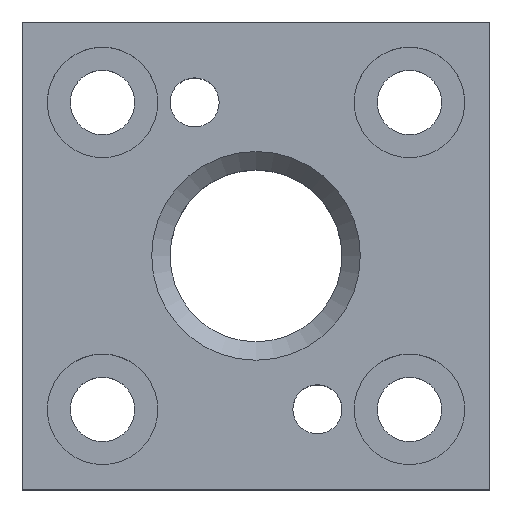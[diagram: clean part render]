
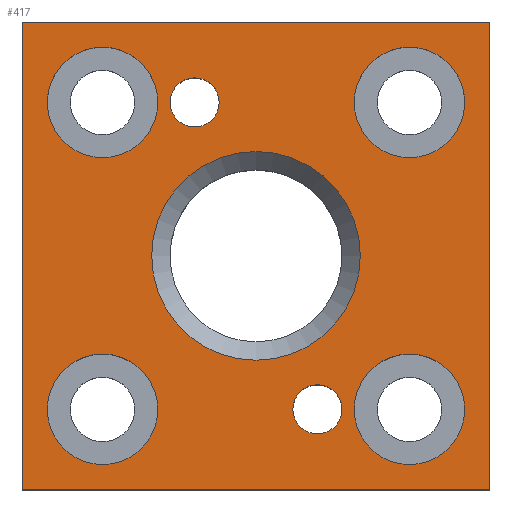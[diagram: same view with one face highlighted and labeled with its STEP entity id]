
A CAD part, top view. The second image highlights one B-rep face of the part: STEP entity #417.
In plain terms, the highlighted planar face has unit normal (0, 0, 1).
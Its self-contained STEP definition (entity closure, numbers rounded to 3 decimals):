
#15=FACE_BOUND('',#79,.T.);
#16=FACE_BOUND('',#80,.T.);
#17=FACE_BOUND('',#81,.T.);
#18=FACE_BOUND('',#82,.T.);
#19=FACE_BOUND('',#83,.T.);
#20=FACE_BOUND('',#84,.T.);
#21=FACE_BOUND('',#85,.T.);
#33=PLANE('',#463);
#56=FACE_OUTER_BOUND('',#78,.T.);
#78=EDGE_LOOP('',(#308,#309,#310,#311));
#79=EDGE_LOOP('',(#312,#313));
#80=EDGE_LOOP('',(#314,#315));
#81=EDGE_LOOP('',(#316,#317));
#82=EDGE_LOOP('',(#318,#319));
#83=EDGE_LOOP('',(#320,#321));
#84=EDGE_LOOP('',(#322,#323));
#85=EDGE_LOOP('',(#324));
#118=LINE('',#667,#142);
#119=LINE('',#669,#143);
#120=LINE('',#671,#144);
#121=LINE('',#672,#145);
#142=VECTOR('',#531,10.);
#143=VECTOR('',#532,10.);
#144=VECTOR('',#533,10.);
#145=VECTOR('',#534,10.);
#164=CIRCLE('',#458,17.);
#168=CIRCLE('',#464,9.);
#169=CIRCLE('',#465,9.);
#170=CIRCLE('',#466,9.);
#171=CIRCLE('',#467,9.);
#172=CIRCLE('',#468,9.);
#173=CIRCLE('',#469,9.);
#174=CIRCLE('',#470,9.);
#175=CIRCLE('',#471,9.);
#176=CIRCLE('',#472,4.);
#177=CIRCLE('',#473,4.);
#178=CIRCLE('',#474,4.);
#179=CIRCLE('',#475,4.);
#198=VERTEX_POINT('',#653);
#202=VERTEX_POINT('',#665);
#203=VERTEX_POINT('',#666);
#204=VERTEX_POINT('',#668);
#205=VERTEX_POINT('',#670);
#206=VERTEX_POINT('',#673);
#207=VERTEX_POINT('',#674);
#208=VERTEX_POINT('',#677);
#209=VERTEX_POINT('',#678);
#210=VERTEX_POINT('',#681);
#211=VERTEX_POINT('',#682);
#212=VERTEX_POINT('',#685);
#213=VERTEX_POINT('',#686);
#214=VERTEX_POINT('',#689);
#215=VERTEX_POINT('',#690);
#216=VERTEX_POINT('',#693);
#217=VERTEX_POINT('',#694);
#240=EDGE_CURVE('',#198,#198,#164,.T.);
#246=EDGE_CURVE('',#202,#203,#118,.T.);
#247=EDGE_CURVE('',#204,#202,#119,.T.);
#248=EDGE_CURVE('',#205,#204,#120,.T.);
#249=EDGE_CURVE('',#203,#205,#121,.T.);
#250=EDGE_CURVE('',#206,#207,#168,.T.);
#251=EDGE_CURVE('',#207,#206,#169,.T.);
#252=EDGE_CURVE('',#208,#209,#170,.T.);
#253=EDGE_CURVE('',#209,#208,#171,.T.);
#254=EDGE_CURVE('',#210,#211,#172,.T.);
#255=EDGE_CURVE('',#211,#210,#173,.T.);
#256=EDGE_CURVE('',#212,#213,#174,.T.);
#257=EDGE_CURVE('',#213,#212,#175,.T.);
#258=EDGE_CURVE('',#214,#215,#176,.T.);
#259=EDGE_CURVE('',#215,#214,#177,.T.);
#260=EDGE_CURVE('',#216,#217,#178,.T.);
#261=EDGE_CURVE('',#217,#216,#179,.T.);
#308=ORIENTED_EDGE('',*,*,#246,.F.);
#309=ORIENTED_EDGE('',*,*,#247,.F.);
#310=ORIENTED_EDGE('',*,*,#248,.F.);
#311=ORIENTED_EDGE('',*,*,#249,.F.);
#312=ORIENTED_EDGE('',*,*,#250,.T.);
#313=ORIENTED_EDGE('',*,*,#251,.T.);
#314=ORIENTED_EDGE('',*,*,#252,.T.);
#315=ORIENTED_EDGE('',*,*,#253,.T.);
#316=ORIENTED_EDGE('',*,*,#254,.T.);
#317=ORIENTED_EDGE('',*,*,#255,.T.);
#318=ORIENTED_EDGE('',*,*,#256,.T.);
#319=ORIENTED_EDGE('',*,*,#257,.T.);
#320=ORIENTED_EDGE('',*,*,#258,.T.);
#321=ORIENTED_EDGE('',*,*,#259,.T.);
#322=ORIENTED_EDGE('',*,*,#260,.T.);
#323=ORIENTED_EDGE('',*,*,#261,.T.);
#324=ORIENTED_EDGE('',*,*,#240,.F.);
#417=ADVANCED_FACE('',(#56,#15,#16,#17,#18,#19,#20,#21),#33,.T.);
#458=AXIS2_PLACEMENT_3D('',#654,#517,#518);
#463=AXIS2_PLACEMENT_3D('',#664,#529,#530);
#464=AXIS2_PLACEMENT_3D('',#675,#535,#536);
#465=AXIS2_PLACEMENT_3D('',#676,#537,#538);
#466=AXIS2_PLACEMENT_3D('',#679,#539,#540);
#467=AXIS2_PLACEMENT_3D('',#680,#541,#542);
#468=AXIS2_PLACEMENT_3D('',#683,#543,#544);
#469=AXIS2_PLACEMENT_3D('',#684,#545,#546);
#470=AXIS2_PLACEMENT_3D('',#687,#547,#548);
#471=AXIS2_PLACEMENT_3D('',#688,#549,#550);
#472=AXIS2_PLACEMENT_3D('',#691,#551,#552);
#473=AXIS2_PLACEMENT_3D('',#692,#553,#554);
#474=AXIS2_PLACEMENT_3D('',#695,#555,#556);
#475=AXIS2_PLACEMENT_3D('',#696,#557,#558);
#517=DIRECTION('center_axis',(0.,0.,1.));
#518=DIRECTION('ref_axis',(-1.,0.,0.));
#529=DIRECTION('center_axis',(0.,0.,1.));
#530=DIRECTION('ref_axis',(1.,0.,0.));
#531=DIRECTION('',(0.,-1.,0.));
#532=DIRECTION('',(1.,0.,0.));
#533=DIRECTION('',(0.,1.,0.));
#534=DIRECTION('',(-1.,0.,0.));
#535=DIRECTION('center_axis',(0.,0.,-1.));
#536=DIRECTION('ref_axis',(1.,0.,0.));
#537=DIRECTION('center_axis',(0.,0.,-1.));
#538=DIRECTION('ref_axis',(1.,0.,0.));
#539=DIRECTION('center_axis',(0.,0.,-1.));
#540=DIRECTION('ref_axis',(1.,0.,0.));
#541=DIRECTION('center_axis',(0.,0.,-1.));
#542=DIRECTION('ref_axis',(1.,0.,0.));
#543=DIRECTION('center_axis',(0.,0.,-1.));
#544=DIRECTION('ref_axis',(1.,0.,0.));
#545=DIRECTION('center_axis',(0.,0.,-1.));
#546=DIRECTION('ref_axis',(1.,0.,0.));
#547=DIRECTION('center_axis',(0.,0.,-1.));
#548=DIRECTION('ref_axis',(1.,0.,0.));
#549=DIRECTION('center_axis',(0.,0.,-1.));
#550=DIRECTION('ref_axis',(1.,0.,0.));
#551=DIRECTION('center_axis',(0.,0.,-1.));
#552=DIRECTION('ref_axis',(1.,0.,0.));
#553=DIRECTION('center_axis',(0.,0.,-1.));
#554=DIRECTION('ref_axis',(1.,0.,0.));
#555=DIRECTION('center_axis',(0.,0.,-1.));
#556=DIRECTION('ref_axis',(1.,0.,0.));
#557=DIRECTION('center_axis',(0.,0.,-1.));
#558=DIRECTION('ref_axis',(1.,0.,0.));
#653=CARTESIAN_POINT('',(30.543,17.036,25.));
#654=CARTESIAN_POINT('Origin',(13.543,17.036,25.));
#664=CARTESIAN_POINT('Origin',(13.543,17.036,25.));
#665=CARTESIAN_POINT('',(51.643,55.136,25.));
#666=CARTESIAN_POINT('',(51.643,-21.064,25.));
#667=CARTESIAN_POINT('',(51.643,55.136,25.));
#668=CARTESIAN_POINT('',(-24.557,55.136,25.));
#669=CARTESIAN_POINT('',(-24.557,55.136,25.));
#670=CARTESIAN_POINT('',(-24.557,-21.064,25.));
#671=CARTESIAN_POINT('',(-24.557,-21.064,25.));
#672=CARTESIAN_POINT('',(51.643,-21.064,25.));
#673=CARTESIAN_POINT('',(-2.457,42.036,25.));
#674=CARTESIAN_POINT('',(-20.457,42.036,25.));
#675=CARTESIAN_POINT('Origin',(-11.457,42.036,25.));
#676=CARTESIAN_POINT('Origin',(-11.457,42.036,25.));
#677=CARTESIAN_POINT('',(47.543,-7.964,25.));
#678=CARTESIAN_POINT('',(29.543,-7.964,25.));
#679=CARTESIAN_POINT('Origin',(38.543,-7.964,25.));
#680=CARTESIAN_POINT('Origin',(38.543,-7.964,25.));
#681=CARTESIAN_POINT('',(-2.457,-7.964,25.));
#682=CARTESIAN_POINT('',(-20.457,-7.964,25.));
#683=CARTESIAN_POINT('Origin',(-11.457,-7.964,25.));
#684=CARTESIAN_POINT('Origin',(-11.457,-7.964,25.));
#685=CARTESIAN_POINT('',(47.543,42.036,25.));
#686=CARTESIAN_POINT('',(29.543,42.036,25.));
#687=CARTESIAN_POINT('Origin',(38.543,42.036,25.));
#688=CARTESIAN_POINT('Origin',(38.543,42.036,25.));
#689=CARTESIAN_POINT('',(7.543,42.036,25.));
#690=CARTESIAN_POINT('',(-0.457,42.036,25.));
#691=CARTESIAN_POINT('Origin',(3.543,42.036,25.));
#692=CARTESIAN_POINT('Origin',(3.543,42.036,25.));
#693=CARTESIAN_POINT('',(27.543,-7.964,25.));
#694=CARTESIAN_POINT('',(19.543,-7.964,25.));
#695=CARTESIAN_POINT('Origin',(23.543,-7.964,25.));
#696=CARTESIAN_POINT('Origin',(23.543,-7.964,25.));
